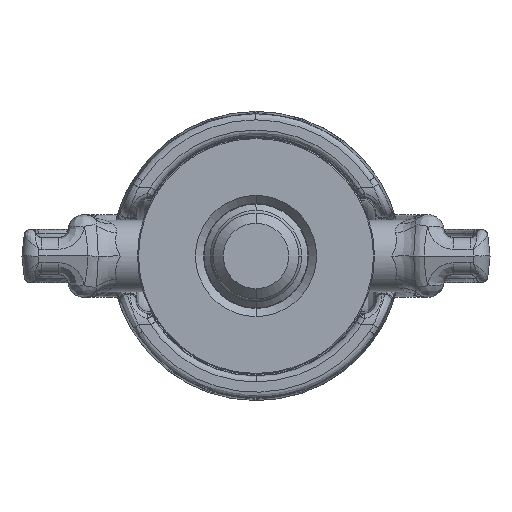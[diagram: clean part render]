
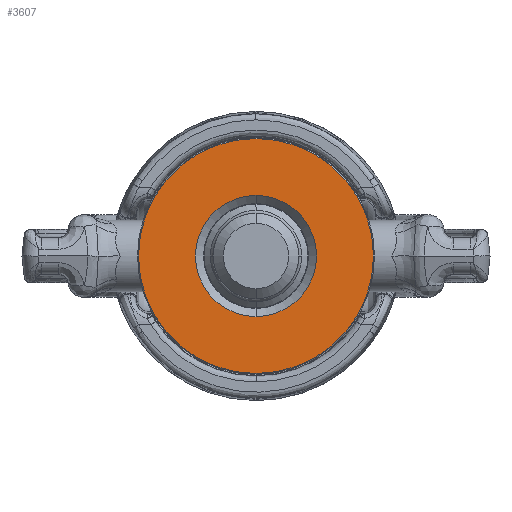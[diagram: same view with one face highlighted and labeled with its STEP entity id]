
A CAD part, front view. The second image highlights one B-rep face of the part: STEP entity #3607.
In plain terms, the highlighted planar face has unit normal (0, -1, 0).
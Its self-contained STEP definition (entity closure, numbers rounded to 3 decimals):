
#2048 = VERTEX_POINT ( 'NONE', #8556 ) ;
#2588 = EDGE_CURVE ( 'NONE', #2048, #2627, #11589, .T. ) ;
#2622 = VERTEX_POINT ( 'NONE', #11804 ) ;
#2623 = EDGE_CURVE ( 'NONE', #2622, #2625, #11934, .T. ) ;
#2625 = VERTEX_POINT ( 'NONE', #11928 ) ;
#2627 = VERTEX_POINT ( 'NONE', #11927 ) ;
#3607 = ADVANCED_FACE ( 'NONE', ( #26899, #26892 ), #26891, .F. ) ;
#3608 = EDGE_LOOP ( 'NONE', ( #3609, #3716 ) ) ;
#3609 = ORIENTED_EDGE ( 'NONE', *, *, #3632, .F. ) ;
#3632 = EDGE_CURVE ( 'NONE', #2627, #2048, #26928, .T. ) ;
#3669 = EDGE_CURVE ( 'NONE', #2625, #2622, #26957, .T. ) ;
#3691 = EDGE_LOOP ( 'NONE', ( #3693, #3694 ) ) ;
#3693 = ORIENTED_EDGE ( 'NONE', *, *, #2623, .F. ) ;
#3694 = ORIENTED_EDGE ( 'NONE', *, *, #3669, .F. ) ;
#3716 = ORIENTED_EDGE ( 'NONE', *, *, #2588, .F. ) ;
#8556 = CARTESIAN_POINT ( 'NONE',  ( 0., 0., 29.65 ) ) ;
#11585 = DIRECTION ( 'NONE',  ( 0., 0., -1. ) ) ;
#11586 = DIRECTION ( 'NONE',  ( 0., -1., 0. ) ) ;
#11587 = CARTESIAN_POINT ( 'NONE',  ( 0., 0., 0. ) ) ;
#11588 = AXIS2_PLACEMENT_3D ( 'NONE', #11587, #11586, #11585 ) ;
#11589 = CIRCLE ( 'NONE', #11588, 29.65 ) ;
#11804 = CARTESIAN_POINT ( 'NONE',  ( 0., 0., 57.5 ) ) ;
#11927 = CARTESIAN_POINT ( 'NONE',  ( 0., 0., -29.65 ) ) ;
#11928 = CARTESIAN_POINT ( 'NONE',  ( 0., 0., -57.5 ) ) ;
#11930 = DIRECTION ( 'NONE',  ( 0., 0., 1. ) ) ;
#11931 = DIRECTION ( 'NONE',  ( 0., 1., 0. ) ) ;
#11932 = CARTESIAN_POINT ( 'NONE',  ( 0., 0., 0. ) ) ;
#11933 = AXIS2_PLACEMENT_3D ( 'NONE', #11932, #11931, #11930 ) ;
#11934 = CIRCLE ( 'NONE', #11933, 57.5 ) ;
#26882 = DIRECTION ( 'NONE',  ( 0., 0., 1. ) ) ;
#26883 = DIRECTION ( 'NONE',  ( 0., 1., 0. ) ) ;
#26885 = AXIS2_PLACEMENT_3D ( 'NONE', #26890, #26883, #26882 ) ;
#26890 = CARTESIAN_POINT ( 'NONE',  ( 0., 0., 0. ) ) ;
#26891 = PLANE ( 'NONE',  #26885 ) ;
#26892 = FACE_OUTER_BOUND ( 'NONE', #3691, .T. ) ;
#26899 = FACE_BOUND ( 'NONE', #3608, .T. ) ;
#26927 = AXIS2_PLACEMENT_3D ( 'NONE', #26938, #26936, #26935 ) ;
#26928 = CIRCLE ( 'NONE', #26927, 29.65 ) ;
#26935 = DIRECTION ( 'NONE',  ( 0., 0., -1. ) ) ;
#26936 = DIRECTION ( 'NONE',  ( 0., -1., 0. ) ) ;
#26938 = CARTESIAN_POINT ( 'NONE',  ( 0., 0., 0. ) ) ;
#26953 = DIRECTION ( 'NONE',  ( 0., 0., 1. ) ) ;
#26954 = DIRECTION ( 'NONE',  ( 0., 1., 0. ) ) ;
#26955 = CARTESIAN_POINT ( 'NONE',  ( 0., 0., 0. ) ) ;
#26956 = AXIS2_PLACEMENT_3D ( 'NONE', #26955, #26954, #26953 ) ;
#26957 = CIRCLE ( 'NONE', #26956, 57.5 ) ;
